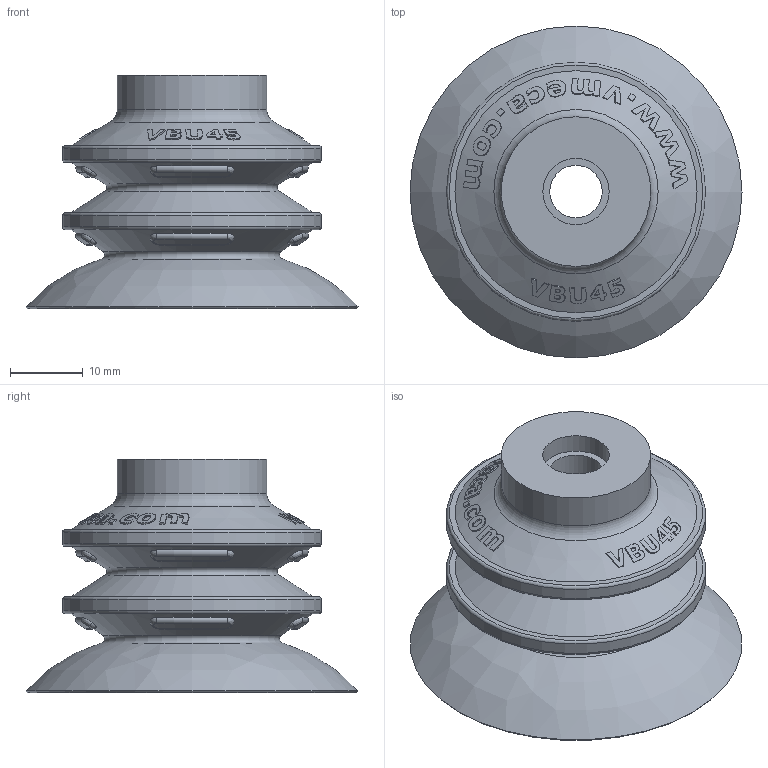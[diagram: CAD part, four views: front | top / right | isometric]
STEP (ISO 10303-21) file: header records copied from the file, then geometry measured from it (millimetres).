
FILE_DESCRIPTION( ( 'Unknown' ), '1' );
FILE_NAME( 'D:/New PAD/3欽 寨煎辦鍔/3D/VBU45/STP/VBU45.stp', 'Unknown', ( 'Unknown' ), ( 'Unknown' ), 'PSStep 10.0', 'Unknown', ' ' );
FILE_SCHEMA( ( 'automotive_design' ) );
Length unit declared in the file: millimetre
Products named in the file (1): 1
Bounding box: 45.5 x 45.5 x 32 mm (x, y, z)
Volume: 9888.3 mm3; surface area: 9589.4 mm2
Topology: 1 solids, 1 shells, 325 faces, 840 edges, 552 vertices
Faces by surface type: bspline 207, cone 43, torus 37, plane 23, cylinder 15
Full cylindrical faces by diameter (mm): 7.2 x1, 9.1 x1, 18.979 x2, 20.5 x1, 35.5 x2
Entity records: 23482 total; most frequent: CARTESIAN_POINT 14797, ORIENTED_EDGE 1592, EDGE_CURVE 796, DIRECTION 612, B_SPLINE_CURVE_WITH_KNOTS 589, VERTEX_POINT 545, EDGE_LOOP 399, FACE_OUTER_BOUND 349
